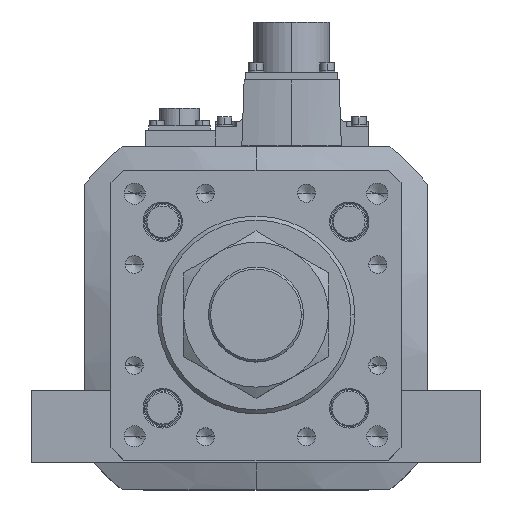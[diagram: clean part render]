
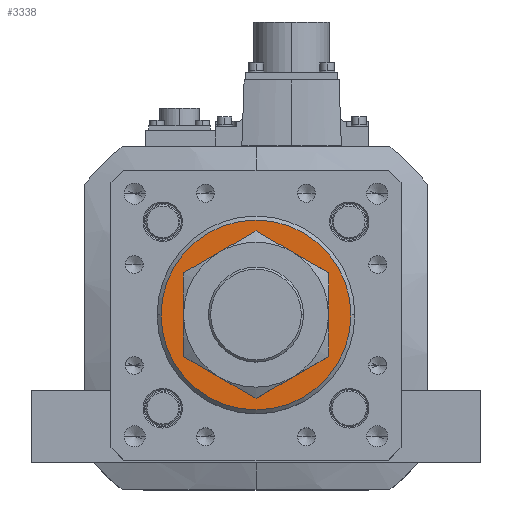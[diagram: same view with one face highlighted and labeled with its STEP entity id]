
A CAD part, top view. The second image highlights one B-rep face of the part: STEP entity #3338.
In plain terms, the highlighted planar face has unit normal (0, 0, 1).
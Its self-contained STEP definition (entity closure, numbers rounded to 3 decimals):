
#233 = DIRECTION ( 'NONE',  ( 0., 0., 1. ) ) ;
#1645 = DIRECTION ( 'NONE',  ( 1., 0., 0. ) ) ;
#1820 = DIRECTION ( 'NONE',  ( 0., 0., -1. ) ) ;
#1959 = DIRECTION ( 'NONE',  ( 1., 0., 0. ) ) ;
#2643 = DIRECTION ( 'NONE',  ( 0., 0., 1. ) ) ;
#3338 = ADVANCED_FACE ( 'NONE', ( #4385, #26555 ), #9254, .T. ) ;
#4380 = ORIENTED_EDGE ( 'NONE', *, *, #7350, .T. ) ;
#4385 = FACE_BOUND ( 'NONE', #25547, .T. ) ;
#6516 = DIRECTION ( 'NONE',  ( 1., 0., 0. ) ) ;
#7350 = EDGE_CURVE ( 'NONE', #9833, #13401, #15818, .T. ) ;
#8888 = ORIENTED_EDGE ( 'NONE', *, *, #17967, .T. ) ;
#9254 = PLANE ( 'NONE',  #22721 ) ;
#9833 = VERTEX_POINT ( 'NONE', #27774 ) ;
#10599 = EDGE_CURVE ( 'NONE', #24073, #32359, #27381, .T. ) ;
#12574 = AXIS2_PLACEMENT_3D ( 'NONE', #37689, #13066, #1645 ) ;
#12681 = DIRECTION ( 'NONE',  ( 0., 0., -1. ) ) ;
#13066 = DIRECTION ( 'NONE',  ( 0., 0., 1. ) ) ;
#13255 = AXIS2_PLACEMENT_3D ( 'NONE', #36528, #12681, #24292 ) ;
#13401 = VERTEX_POINT ( 'NONE', #35310 ) ;
#14201 = DIRECTION ( 'NONE',  ( 1., 0., 0. ) ) ;
#15818 = CIRCLE ( 'NONE', #13255, 23. ) ;
#17967 = EDGE_CURVE ( 'NONE', #32359, #24073, #28330, .T. ) ;
#18690 = CARTESIAN_POINT ( 'NONE',  ( 36., 0., 446. ) ) ;
#18773 = CIRCLE ( 'NONE', #27756, 23. ) ;
#20265 = CARTESIAN_POINT ( 'NONE',  ( -36., 0., 446. ) ) ;
#21820 = ORIENTED_EDGE ( 'NONE', *, *, #26432, .T. ) ;
#22721 = AXIS2_PLACEMENT_3D ( 'NONE', #24455, #233, #6516 ) ;
#24073 = VERTEX_POINT ( 'NONE', #20265 ) ;
#24292 = DIRECTION ( 'NONE',  ( 1., 0., 0. ) ) ;
#24455 = CARTESIAN_POINT ( 'NONE',  ( 0., 0., 446. ) ) ;
#25547 = EDGE_LOOP ( 'NONE', ( #21820, #4380 ) ) ;
#26432 = EDGE_CURVE ( 'NONE', #13401, #9833, #18773, .T. ) ;
#26555 = FACE_OUTER_BOUND ( 'NONE', #35309, .T. ) ;
#27303 = ORIENTED_EDGE ( 'NONE', *, *, #10599, .T. ) ;
#27381 = CIRCLE ( 'NONE', #27758, 36. ) ;
#27756 = AXIS2_PLACEMENT_3D ( 'NONE', #34833, #1820, #1959 ) ;
#27758 = AXIS2_PLACEMENT_3D ( 'NONE', #35670, #2643, #14201 ) ;
#27774 = CARTESIAN_POINT ( 'NONE',  ( -23., 0., 446. ) ) ;
#28330 = CIRCLE ( 'NONE', #12574, 36. ) ;
#32359 = VERTEX_POINT ( 'NONE', #18690 ) ;
#34833 = CARTESIAN_POINT ( 'NONE',  ( 0., 0., 446. ) ) ;
#35309 = EDGE_LOOP ( 'NONE', ( #27303, #8888 ) ) ;
#35310 = CARTESIAN_POINT ( 'NONE',  ( 23., 0., 446. ) ) ;
#35670 = CARTESIAN_POINT ( 'NONE',  ( 0., 0., 446. ) ) ;
#36528 = CARTESIAN_POINT ( 'NONE',  ( 0., 0., 446. ) ) ;
#37689 = CARTESIAN_POINT ( 'NONE',  ( 0., 0., 446. ) ) ;
